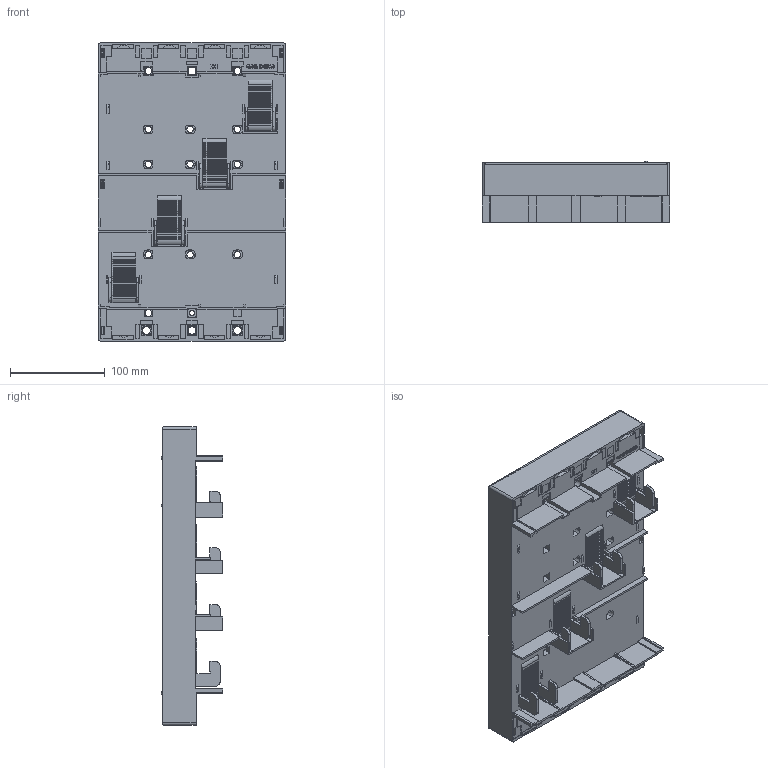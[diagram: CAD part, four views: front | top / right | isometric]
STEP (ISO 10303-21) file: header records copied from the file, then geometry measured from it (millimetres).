
FILE_DESCRIPTION (( 'STEP AP203' ), '1' );
FILE_NAME ('55007.STEP', '2021-08-28T03:00:41', ( '' ), ( '' ), 'SwSTEP 2.0', 'SolidWorks 2017', '' );
FILE_SCHEMA (( 'CONFIG_CONTROL_DESIGN' ));
Length unit declared in the file: millimetre
Products named in the file (2): 55007
Bounding box: 197.5 x 64.5 x 315 mm (x, y, z)
Volume: 2113059.5 mm3; surface area: 276286.2 mm2
Topology: 1 solids, 11 shells, 3550 faces, 9948 edges, 6582 vertices
Faces by surface type: plane 2996, cylinder 478, cone 68, sphere 8
Full cylindrical faces by diameter (mm): 5.2 x1, 6.8 x12, 8.4 x5, 8.7 x4, 9 x4, 10 x8, 10.5 x6, 11 x38, 19 x8, 21 x8
Entity records: 114862 total; most frequent: CARTESIAN_POINT 23946, ORIENTED_EDGE 19422, DIRECTION 17498, EDGE_CURVE 9711, VECTOR 8024, LINE 8024, VERTEX_POINT 6519, AXIS2_PLACEMENT_3D 4737
